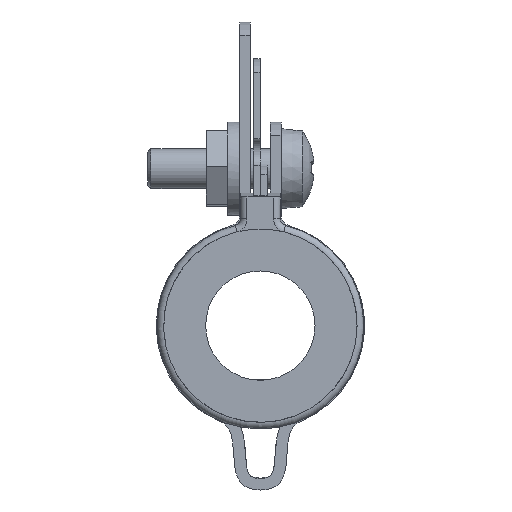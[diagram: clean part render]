
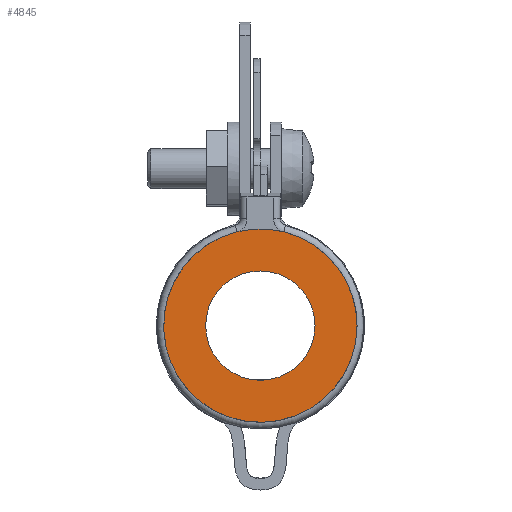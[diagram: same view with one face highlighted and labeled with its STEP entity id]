
A CAD part, front view. The second image highlights one B-rep face of the part: STEP entity #4845.
In plain terms, the highlighted planar face has unit normal (0, -1, 0).
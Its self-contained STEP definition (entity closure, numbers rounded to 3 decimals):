
#126=FACE_BOUND($,#810,.T.);
#484=FACE_OUTER_BOUND($,#809,.T.);
#809=EDGE_LOOP($,(#4095));
#810=EDGE_LOOP($,(#4096));
#1071=CIRCLE($,#5327,7.25);
#1076=CIRCLE($,#5360,4.1);
#2184=VERTEX_POINT($,#8368);
#2195=VERTEX_POINT($,#8422);
#2820=EDGE_CURVE($,#2184,#2184,#1071,.T.);
#2835=EDGE_CURVE($,#2195,#2195,#1076,.T.);
#4095=ORIENTED_EDGE($,*,*,#2820,.T.);
#4096=ORIENTED_EDGE($,*,*,#2835,.T.);
#4307=PLANE($,#5363);
#4845=ADVANCED_FACE($,(#484,#126),#4307,.T.);
#5327=AXIS2_PLACEMENT_3D($,#8369,#6637,#6638);
#5360=AXIS2_PLACEMENT_3D($,#8423,#6713,#6714);
#5363=AXIS2_PLACEMENT_3D($,#8426,#6719,#6720);
#6637=DIRECTION('center_axis',(0.,-1.,0.));
#6638=DIRECTION('ref_axis',(-1.,0.,0.));
#6713=DIRECTION('center_axis',(0.,1.,0.));
#6714=DIRECTION('ref_axis',(1.,0.,0.));
#6719=DIRECTION('center_axis',(0.,-1.,0.));
#6720=DIRECTION('ref_axis',(0.,0.,-1.));
#8368=CARTESIAN_POINT('',(7.25,0.,0.));
#8369=CARTESIAN_POINT('Origin',(0.,0.,0.));
#8422=CARTESIAN_POINT('',(-4.1,0.,0.));
#8423=CARTESIAN_POINT('Origin',(0.,0.,0.));
#8426=CARTESIAN_POINT('Origin',(0.,0.,0.));
